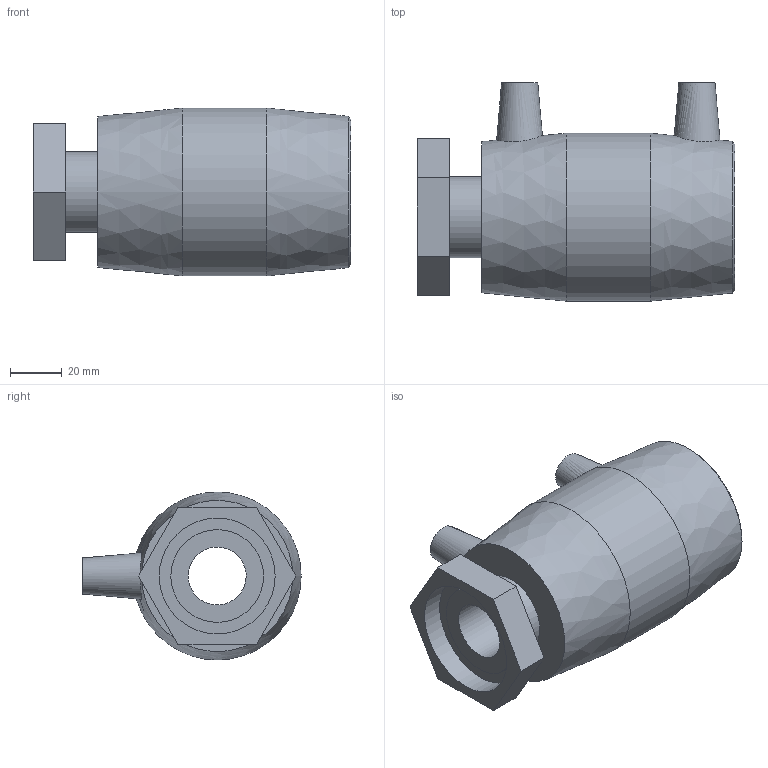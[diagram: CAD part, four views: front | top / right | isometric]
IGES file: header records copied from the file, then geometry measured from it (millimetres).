
Global section: file name: 494104050015; native system: Autodesk Inventor 2026; preprocessor: unknown; author: KIM; date: 20260512.113439; units: millimetre
Bounding box: 123 x 84.5 x 65 mm (x, y, z)
Volume: 154604.6 mm3; surface area: 51000.5 mm2
Topology: 1 solids, 1 shells, 36 faces, 81 edges, 59 vertices
Faces by surface type: bspline 36
